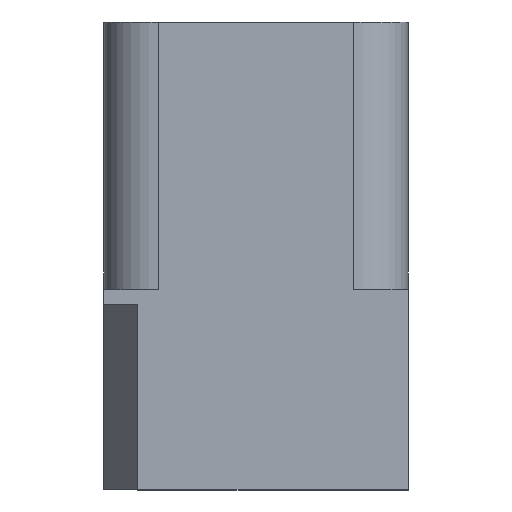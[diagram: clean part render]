
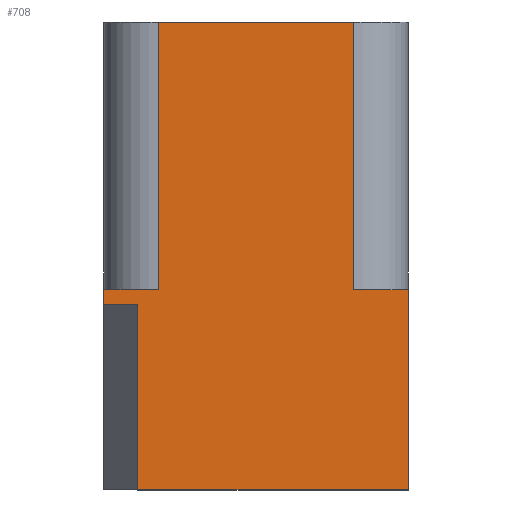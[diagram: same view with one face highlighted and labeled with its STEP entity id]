
A CAD part, top view. The second image highlights one B-rep face of the part: STEP entity #708.
In plain terms, the highlighted planar face has unit normal (0, 0, 1).
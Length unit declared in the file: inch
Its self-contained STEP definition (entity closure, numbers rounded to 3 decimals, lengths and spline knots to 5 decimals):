
#101=DIRECTION('',(0.,1.,0.));
#102=VECTOR('',#101,0.59);
#103=CARTESIAN_POINT('',(0.215,-0.075,0.12));
#104=LINE('',#103,#102);
#105=DIRECTION('',(1.,0.,0.));
#106=VECTOR('',#105,0.12);
#107=CARTESIAN_POINT('',(0.215,-0.075,0.12));
#108=LINE('',#107,#106);
#109=DIRECTION('',(0.,1.,0.));
#110=VECTOR('',#109,0.44);
#111=CARTESIAN_POINT('',(0.335,-0.515,0.12));
#112=LINE('',#111,#110);
#113=DIRECTION('',(1.,0.,0.));
#114=VECTOR('',#113,0.595);
#115=CARTESIAN_POINT('',(-0.26,-0.515,0.12));
#116=LINE('',#115,#114);
#117=DIRECTION('',(0.,1.,0.));
#118=VECTOR('',#117,0.409);
#119=CARTESIAN_POINT('',(-0.26,-0.515,0.12));
#120=LINE('',#119,#118);
#121=DIRECTION('',(1.,0.,0.));
#122=VECTOR('',#121,0.075);
#123=CARTESIAN_POINT('',(-0.335,-0.106,0.12));
#124=LINE('',#123,#122);
#125=DIRECTION('',(0.,-1.,0.));
#126=VECTOR('',#125,0.031);
#127=CARTESIAN_POINT('',(-0.335,-0.075,0.12));
#128=LINE('',#127,#126);
#129=DIRECTION('',(1.,0.,0.));
#130=VECTOR('',#129,0.12);
#131=CARTESIAN_POINT('',(-0.335,-0.075,0.12));
#132=LINE('',#131,#130);
#133=DIRECTION('',(0.,1.,0.));
#134=VECTOR('',#133,0.59);
#135=CARTESIAN_POINT('',(-0.215,-0.075,0.12));
#136=LINE('',#135,#134);
#137=DIRECTION('',(-1.,0.,0.));
#138=VECTOR('',#137,0.43);
#139=CARTESIAN_POINT('',(0.215,0.515,0.12));
#140=LINE('',#139,#138);
#420=CARTESIAN_POINT('',(0.335,-0.515,0.12));
#422=VERTEX_POINT('',#420);
#429=CARTESIAN_POINT('',(-0.335,-0.106,0.12));
#430=CARTESIAN_POINT('',(-0.26,-0.106,0.12));
#431=VERTEX_POINT('',#429);
#432=VERTEX_POINT('',#430);
#433=CARTESIAN_POINT('',(-0.26,-0.515,0.12));
#434=VERTEX_POINT('',#433);
#519=CARTESIAN_POINT('',(0.215,-0.075,0.12));
#520=CARTESIAN_POINT('',(0.215,0.515,0.12));
#521=VERTEX_POINT('',#519);
#522=VERTEX_POINT('',#520);
#527=CARTESIAN_POINT('',(0.335,-0.075,0.12));
#528=VERTEX_POINT('',#527);
#529=CARTESIAN_POINT('',(-0.215,0.515,0.12));
#530=VERTEX_POINT('',#529);
#533=CARTESIAN_POINT('',(-0.215,-0.075,0.12));
#534=VERTEX_POINT('',#533);
#537=CARTESIAN_POINT('',(-0.335,-0.075,0.12));
#538=VERTEX_POINT('',#537);
#686=CARTESIAN_POINT('',(0.,0.,0.12));
#687=DIRECTION('',(0.,0.,1.));
#688=DIRECTION('',(1.,0.,0.));
#689=AXIS2_PLACEMENT_3D('',#686,#687,#688);
#690=PLANE('',#689);
#691=ORIENTED_EDGE('',*,*,#581,.F.);
#692=ORIENTED_EDGE('',*,*,#632,.T.);
#694=ORIENTED_EDGE('',*,*,#693,.F.);
#696=ORIENTED_EDGE('',*,*,#695,.F.);
#698=ORIENTED_EDGE('',*,*,#697,.T.);
#700=ORIENTED_EDGE('',*,*,#699,.F.);
#702=ORIENTED_EDGE('',*,*,#701,.F.);
#703=ORIENTED_EDGE('',*,*,#618,.T.);
#704=ORIENTED_EDGE('',*,*,#648,.T.);
#705=ORIENTED_EDGE('',*,*,#661,.F.);
#706=EDGE_LOOP('',(#691,#692,#694,#696,#698,#700,#702,#703,#704,#705));
#707=FACE_OUTER_BOUND('',#706,.F.);
#708=ADVANCED_FACE('',(#707),#690,.T.);
#581=EDGE_CURVE('',#521,#522,#104,.T.);
#618=EDGE_CURVE('',#538,#534,#132,.T.);
#632=EDGE_CURVE('',#521,#528,#108,.T.);
#648=EDGE_CURVE('',#534,#530,#136,.T.);
#661=EDGE_CURVE('',#522,#530,#140,.T.);
#693=EDGE_CURVE('',#422,#528,#112,.T.);
#695=EDGE_CURVE('',#434,#422,#116,.T.);
#697=EDGE_CURVE('',#434,#432,#120,.T.);
#699=EDGE_CURVE('',#431,#432,#124,.T.);
#701=EDGE_CURVE('',#538,#431,#128,.T.);
